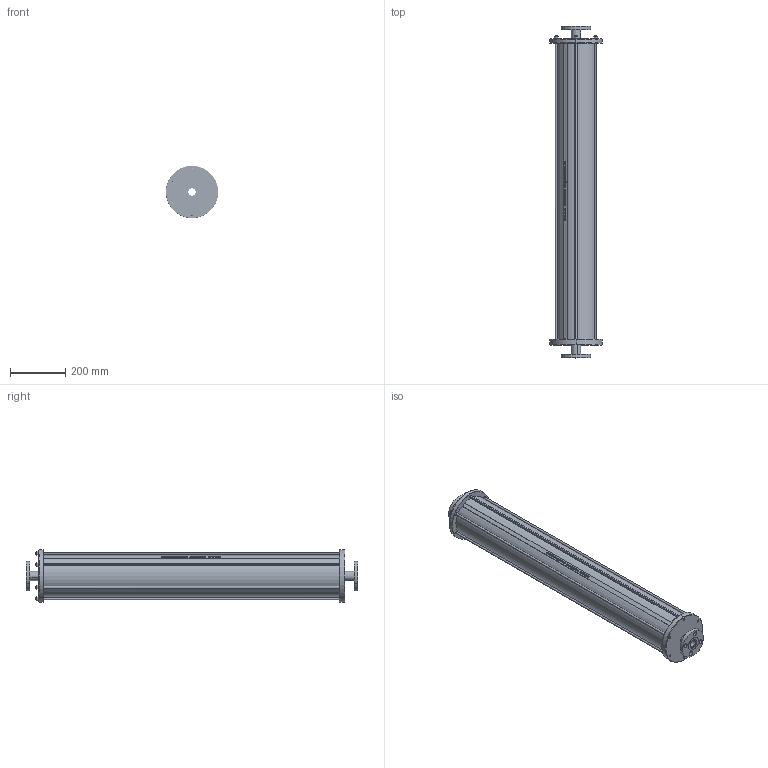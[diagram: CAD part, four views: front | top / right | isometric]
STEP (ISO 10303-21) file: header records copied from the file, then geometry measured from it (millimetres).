
FILE_DESCRIPTION (( 'STEP AP214' ), '1' );
FILE_NAME ('15.0LTR-C-44-34.STEP', '2025-11-05T16:00:21', ( '' ), ( '' ), 'SwSTEP 2.0', 'SolidWorks 2024', '' );
FILE_SCHEMA (( 'AUTOMOTIVE_DESIGN' ));
Length unit declared in the file: millimetre
Products named in the file (1): 15.0LTR-C-44-34
Bounding box: 190 x 1201 x 190 mm (x, y, z)
Volume: 4026309.2 mm3; surface area: 1427888.4 mm2
Topology: 26 solids, 26 shells, 1852 faces, 4800 edges, 3084 vertices
Faces by surface type: cylinder 696, plane 497, bspline 391, cone 136, sphere 108, torus 24
Entity records: 141656 total; most frequent: CARTESIAN_POINT 81404, ORIENTED_EDGE 9600, DIRECTION 6468, EDGE_CURVE 4800, VERTEX_POINT 3084, AXIS2_PLACEMENT_3D 2242, EDGE_LOOP 2014, VECTOR 1984
